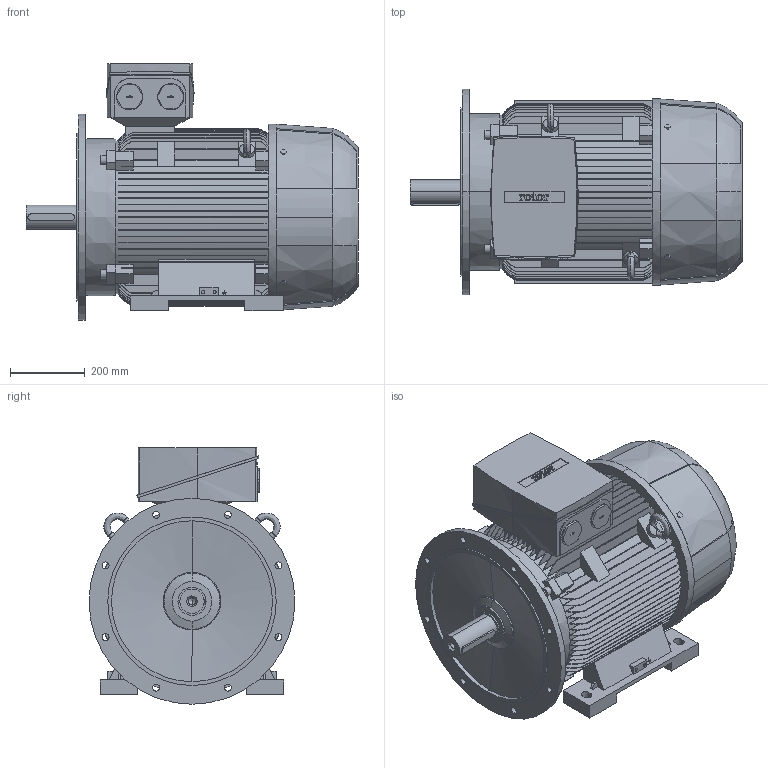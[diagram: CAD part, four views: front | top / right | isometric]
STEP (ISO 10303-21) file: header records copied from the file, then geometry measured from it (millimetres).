
FILE_DESCRIPTION (( 'STEP AP203' ), '1' );
FILE_NAME ('6RN250M08E26 IM2041.STEP', '2017-01-04T10:25:31', ( 'rotor' ), ( 'Hewlett-Packard Company' ), 'SwSTEP 2.0', 'SolidWorks 2015', '' );
FILE_SCHEMA (( 'CONFIG_CONTROL_DESIGN' ));
Length unit declared in the file: millimetre
Products named in the file (1): 6RN250M08E26 IM2041
Bounding box: 887 x 550 x 685 mm (x, y, z)
Volume: 128170098.5 mm3; surface area: 3869552.5 mm2
Topology: 7 solids, 7 shells, 1015 faces, 2861 edges, 1893 vertices
Faces by surface type: plane 582, bspline 210, cylinder 204, cone 19
Entity records: 41762 total; most frequent: CARTESIAN_POINT 17178, ORIENTED_EDGE 5718, DIRECTION 4250, EDGE_CURVE 2859, VERTEX_POINT 1893, VECTOR 1600, LINE 1600, AXIS2_PLACEMENT_3D 1325
